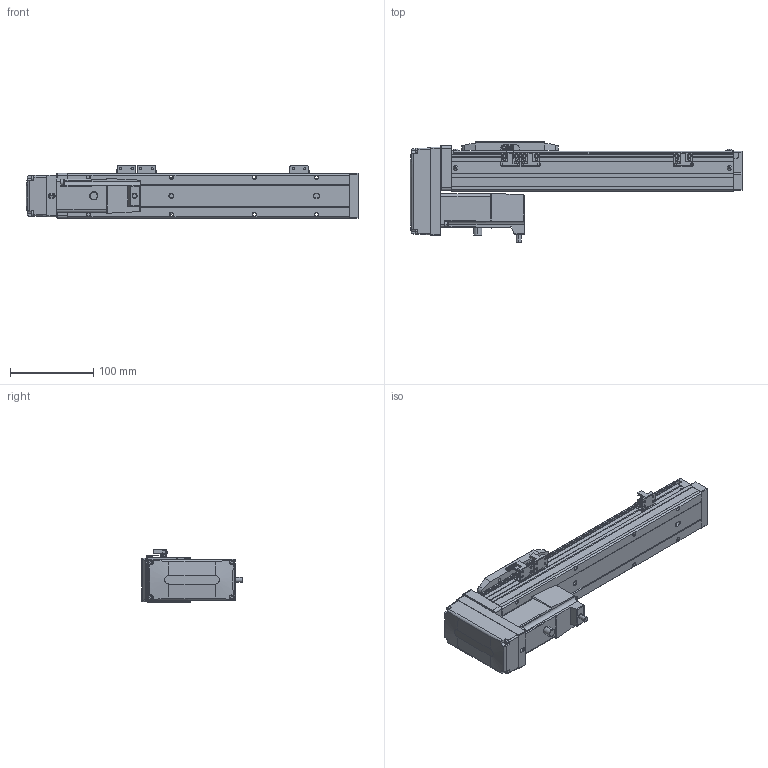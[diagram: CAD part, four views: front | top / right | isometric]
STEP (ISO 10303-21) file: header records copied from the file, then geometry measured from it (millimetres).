
FILE_DESCRIPTION (( 'STEP AP203' ), '1' );
FILE_NAME ('CTH5-L10-S200-BM-C10(¼ò).STEP', '2023-02-04T02:23:09', ( '' ), ( '' ), 'SwSTEP 2.0', 'SolidWorks 2018', '' );
FILE_SCHEMA (( 'CONFIG_CONTROL_DESIGN' ));
Length unit declared in the file: millimetre
Products named in the file (22): M3｡｣; CTH嫖萇羲壽假蚾啣; CTH5菁釱-L340; 嫖萇羲壽郪磁1; CTH5ヶ耜啣(潠); CTH5耜蚾蟀諉啣(潠); CTH5覜茼え; CTH5耜晚蹟隊; hex nuts, style 1-grades ab gb_GB_FASTENER_NUT_SNAB1 M3-N; T10-p1; CTH5綴耜啣; 葩璃 蚾饜极13^CTH8-L10-S50-BM-C40(潠)1; PM-Y45; 葩璃 蚾饜极16^CTH5-L10-S200-BM-C10(潠); CTH100W假蚾啣; CTH5-L10-S200-BM-C10(潠); CTH5耜蚾欶; CTH5-BL-T10_body5; 100W萇儂; 内六角圆柱头螺钉M3-2; CTH5耜晚蹟隊-1; CTH5賑怢
Assembly tree (37 placements, depth 4):
  CTH5-L10-S200-BM-C10(潠)
    CTH5綴耜啣
    CTH5賑怢
    CTH5ヶ耜啣(潠)
    CTH5菁釱-L340
    CTH5耜晚蹟隊  x2
    嫖萇羲壽郪磁1  x2
      CTH嫖萇羲壽假蚾啣
      PM-Y45
      M3｡｣
      内六角圆柱头螺钉M3-2
      hex nuts, style 1-grades ab gb_GB_FASTENER_NUT_SNAB1 M3-N
    CTH5覜茼え
    葩璃 蚾饜极13^CTH8-L10-S50-BM-C40(潠)1
      CTH嫖萇羲壽假蚾啣
      PM-Y45
      内六角圆柱头螺钉M3-2  x2
      M3｡｣  x2
      hex nuts, style 1-grades ab gb_GB_FASTENER_NUT_SNAB1 M3-N  x2
    CTH5耜晚蹟隊-1  x4
    葩璃 蚾饜极16^CTH5-L10-S200-BM-C10(潠)
      CTH5耜蚾蟀諉啣(潠)
      CTH5耜蚾欶
        CTH5-BL-T10_body5
      100W萇儂
        T10-p1
      CTH100W假蚾啣
Bounding box: 400 x 122.21 x 63.3 mm (x, y, z)
Volume: 1145231.6 mm3; surface area: 186555.4 mm2
Topology: 39 solids, 39 shells, 1571 faces, 3931 edges, 2544 vertices
Faces by surface type: plane 890, cylinder 456, cone 167, torus 40, bspline 18
Entity records: 36265 total; most frequent: CARTESIAN_POINT 6712, DIRECTION 5695, ORIENTED_EDGE 5486, EDGE_CURVE 2743, AXIS2_PLACEMENT_3D 1946, VECTOR 1803, LINE 1803, VERTEX_POINT 1772
